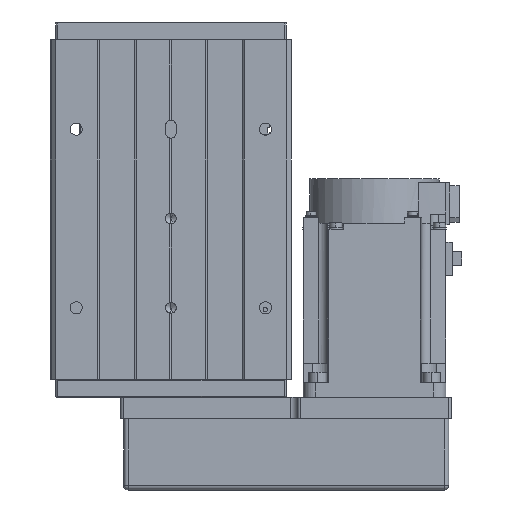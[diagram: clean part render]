
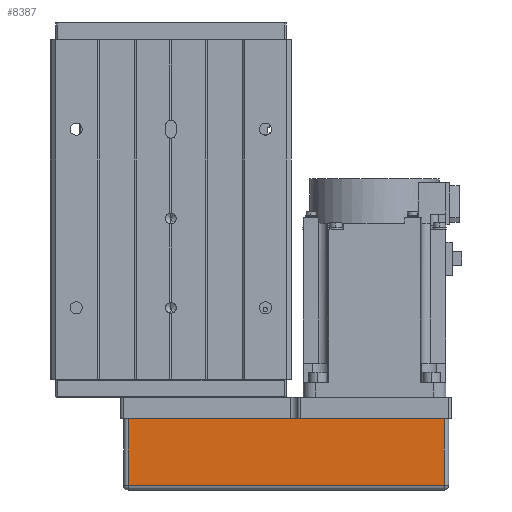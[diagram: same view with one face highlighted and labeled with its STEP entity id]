
A CAD part, front view. The second image highlights one B-rep face of the part: STEP entity #8387.
In plain terms, the highlighted planar face has unit normal (0, -1, 0) as drawn and (0, 1, 0) by its records, which use the part's own axes.
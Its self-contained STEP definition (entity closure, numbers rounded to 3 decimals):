
#756 = DIRECTION ( 'NONE',  ( 0., 0., -1. ) ) ;
#1909 = ORIENTED_EDGE ( 'NONE', *, *, #4535, .T. ) ;
#2115 = LINE ( 'NONE', #14194, #13190 ) ;
#3733 = PLANE ( 'NONE',  #39073 ) ;
#3983 = CARTESIAN_POINT ( 'NONE',  ( -88.5, 32.5, 0. ) ) ;
#4179 = EDGE_CURVE ( 'NONE', #19807, #14740, #2115, .T. ) ;
#4535 = EDGE_CURVE ( 'NONE', #4608, #19807, #34859, .T. ) ;
#4608 = VERTEX_POINT ( 'NONE', #16340 ) ;
#5093 = ORIENTED_EDGE ( 'NONE', *, *, #28313, .T. ) ;
#7777 = CARTESIAN_POINT ( 'NONE',  ( -91., 32.5, 0. ) ) ;
#8387 = ADVANCED_FACE ( 'NONE', ( #30841 ), #3733, .F. ) ;
#9124 = EDGE_CURVE ( 'NONE', #28791, #4608, #11619, .T. ) ;
#10235 = CARTESIAN_POINT ( 'NONE',  ( 88.5, 32.5, 37.5 ) ) ;
#11313 = VECTOR ( 'NONE', #19851, 1000. ) ;
#11619 = LINE ( 'NONE', #23680, #22606 ) ;
#13190 = VECTOR ( 'NONE', #26248, 1000. ) ;
#14194 = CARTESIAN_POINT ( 'NONE',  ( -88.5, 32.5, 40. ) ) ;
#14740 = VERTEX_POINT ( 'NONE', #20332 ) ;
#15815 = CARTESIAN_POINT ( 'NONE',  ( -91., 32.5, 40. ) ) ;
#16340 = CARTESIAN_POINT ( 'NONE',  ( 88.5, 32.5, 0. ) ) ;
#18762 = VECTOR ( 'NONE', #22304, 1000. ) ;
#19696 = CARTESIAN_POINT ( 'NONE',  ( 88.5, 32.5, 37.5 ) ) ;
#19807 = VERTEX_POINT ( 'NONE', #3983 ) ;
#19851 = DIRECTION ( 'NONE',  ( -1., 0., 0. ) ) ;
#20332 = CARTESIAN_POINT ( 'NONE',  ( -88.5, 32.5, 37.5 ) ) ;
#22304 = DIRECTION ( 'NONE',  ( 1., 0., 0. ) ) ;
#22606 = VECTOR ( 'NONE', #35736, 1000. ) ;
#23077 = EDGE_LOOP ( 'NONE', ( #24109, #5093, #32688, #1909 ) ) ;
#23680 = CARTESIAN_POINT ( 'NONE',  ( 88.5, 32.5, 40. ) ) ;
#24109 = ORIENTED_EDGE ( 'NONE', *, *, #4179, .T. ) ;
#26248 = DIRECTION ( 'NONE',  ( 0., 0., 1. ) ) ;
#27874 = DIRECTION ( 'NONE',  ( 0., -1., 0. ) ) ;
#28313 = EDGE_CURVE ( 'NONE', #14740, #28791, #37313, .T. ) ;
#28791 = VERTEX_POINT ( 'NONE', #19696 ) ;
#30841 = FACE_OUTER_BOUND ( 'NONE', #23077, .T. ) ;
#32688 = ORIENTED_EDGE ( 'NONE', *, *, #9124, .T. ) ;
#34859 = LINE ( 'NONE', #7777, #11313 ) ;
#35736 = DIRECTION ( 'NONE',  ( 0., 0., -1. ) ) ;
#37313 = LINE ( 'NONE', #10235, #18762 ) ;
#39073 = AXIS2_PLACEMENT_3D ( 'NONE', #15815, #27874, #756 ) ;
